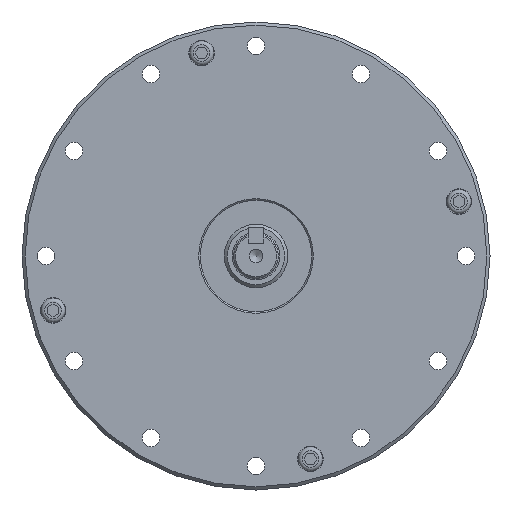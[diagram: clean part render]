
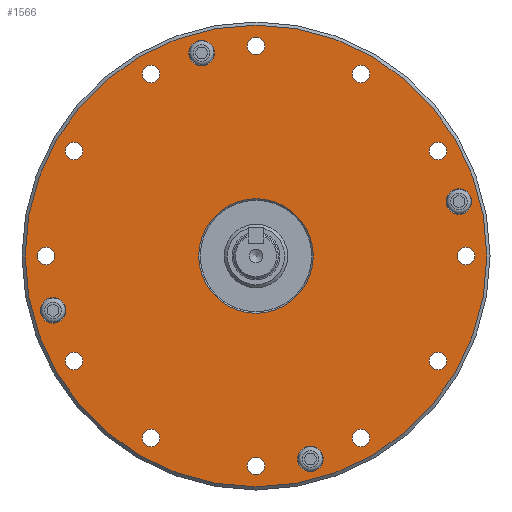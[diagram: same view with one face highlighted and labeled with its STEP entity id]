
A CAD part, front view. The second image highlights one B-rep face of the part: STEP entity #1566.
In plain terms, the highlighted planar face has unit normal (0, -1, 0).
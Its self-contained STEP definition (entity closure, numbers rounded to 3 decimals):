
#1566=ADVANCED_FACE('',(#2799,#2800,#2801,#2802,#2803,#2804,#2805,#2806,
#2807,#2808,#2809,#2810,#2811,#2812,#2813,#2814,#2815,#4507),#2258,.T.);
#2258=PLANE('',#12468);
#2799=FACE_BOUND('',#5254,.T.);
#2800=FACE_BOUND('',#5255,.T.);
#2801=FACE_BOUND('',#5256,.T.);
#2802=FACE_BOUND('',#5257,.T.);
#2803=FACE_BOUND('',#5258,.T.);
#2804=FACE_BOUND('',#5259,.T.);
#2805=FACE_BOUND('',#5260,.T.);
#2806=FACE_BOUND('',#5261,.T.);
#2807=FACE_BOUND('',#5262,.T.);
#2808=FACE_BOUND('',#5263,.T.);
#2809=FACE_BOUND('',#5264,.T.);
#2810=FACE_BOUND('',#5265,.T.);
#2811=FACE_BOUND('',#5266,.T.);
#2812=FACE_BOUND('',#5267,.T.);
#2813=FACE_BOUND('',#5268,.T.);
#2814=FACE_BOUND('',#5269,.T.);
#2815=FACE_BOUND('',#5270,.T.);
#4507=FACE_OUTER_BOUND('',#5271,.T.);
#5254=EDGE_LOOP('',(#6871));
#5255=EDGE_LOOP('',(#6872));
#5256=EDGE_LOOP('',(#6873));
#5257=EDGE_LOOP('',(#6874));
#5258=EDGE_LOOP('',(#6875));
#5259=EDGE_LOOP('',(#6876));
#5260=EDGE_LOOP('',(#6877));
#5261=EDGE_LOOP('',(#6878));
#5262=EDGE_LOOP('',(#6879));
#5263=EDGE_LOOP('',(#6880));
#5264=EDGE_LOOP('',(#6881));
#5265=EDGE_LOOP('',(#6882));
#5266=EDGE_LOOP('',(#6883));
#5267=EDGE_LOOP('',(#6884));
#5268=EDGE_LOOP('',(#6885));
#5269=EDGE_LOOP('',(#6886));
#5270=EDGE_LOOP('',(#6887));
#5271=EDGE_LOOP('',(#6888));
#6871=ORIENTED_EDGE('',*,*,#10253,.T.);
#6872=ORIENTED_EDGE('',*,*,#10215,.T.);
#6873=ORIENTED_EDGE('',*,*,#10219,.T.);
#6874=ORIENTED_EDGE('',*,*,#10223,.T.);
#6875=ORIENTED_EDGE('',*,*,#10225,.T.);
#6876=ORIENTED_EDGE('',*,*,#10227,.T.);
#6877=ORIENTED_EDGE('',*,*,#10229,.T.);
#6878=ORIENTED_EDGE('',*,*,#10231,.T.);
#6879=ORIENTED_EDGE('',*,*,#10233,.T.);
#6880=ORIENTED_EDGE('',*,*,#10235,.T.);
#6881=ORIENTED_EDGE('',*,*,#10237,.T.);
#6882=ORIENTED_EDGE('',*,*,#10239,.T.);
#6883=ORIENTED_EDGE('',*,*,#10241,.T.);
#6884=ORIENTED_EDGE('',*,*,#10243,.T.);
#6885=ORIENTED_EDGE('',*,*,#10245,.T.);
#6886=ORIENTED_EDGE('',*,*,#10254,.T.);
#6887=ORIENTED_EDGE('',*,*,#10255,.T.);
#6888=ORIENTED_EDGE('',*,*,#10256,.T.);
#9110=VERTEX_POINT('',#18082);
#9114=VERTEX_POINT('',#18093);
#9118=VERTEX_POINT('',#18104);
#9120=VERTEX_POINT('',#18110);
#9122=VERTEX_POINT('',#18115);
#9124=VERTEX_POINT('',#18120);
#9126=VERTEX_POINT('',#18125);
#9128=VERTEX_POINT('',#18130);
#9130=VERTEX_POINT('',#18135);
#9132=VERTEX_POINT('',#18140);
#9134=VERTEX_POINT('',#18145);
#9136=VERTEX_POINT('',#18150);
#9138=VERTEX_POINT('',#18155);
#9140=VERTEX_POINT('',#18160);
#9148=VERTEX_POINT('',#18180);
#9149=VERTEX_POINT('',#18182);
#9150=VERTEX_POINT('',#18184);
#9151=VERTEX_POINT('',#18186);
#10215=EDGE_CURVE('',#9110,#9110,#11400,.T.);
#10219=EDGE_CURVE('',#9114,#9114,#11404,.T.);
#10223=EDGE_CURVE('',#9118,#9118,#11408,.T.);
#10225=EDGE_CURVE('',#9120,#9120,#11410,.T.);
#10227=EDGE_CURVE('',#9122,#9122,#11412,.T.);
#10229=EDGE_CURVE('',#9124,#9124,#11414,.T.);
#10231=EDGE_CURVE('',#9126,#9126,#11416,.T.);
#10233=EDGE_CURVE('',#9128,#9128,#11418,.T.);
#10235=EDGE_CURVE('',#9130,#9130,#11420,.T.);
#10237=EDGE_CURVE('',#9132,#9132,#11422,.T.);
#10239=EDGE_CURVE('',#9134,#9134,#11424,.T.);
#10241=EDGE_CURVE('',#9136,#9136,#11426,.T.);
#10243=EDGE_CURVE('',#9138,#9138,#11428,.T.);
#10245=EDGE_CURVE('',#9140,#9140,#11430,.T.);
#10253=EDGE_CURVE('',#9148,#9148,#11438,.T.);
#10254=EDGE_CURVE('',#9149,#9149,#11439,.T.);
#10255=EDGE_CURVE('',#9150,#9150,#11440,.T.);
#10256=EDGE_CURVE('',#9151,#9151,#11441,.T.);
#11400=CIRCLE('',#12404,4.);
#11404=CIRCLE('',#12411,4.);
#11408=CIRCLE('',#12418,4.);
#11410=CIRCLE('',#12422,2.75);
#11412=CIRCLE('',#12425,2.75);
#11414=CIRCLE('',#12428,2.75);
#11416=CIRCLE('',#12431,2.75);
#11418=CIRCLE('',#12434,2.75);
#11420=CIRCLE('',#12437,2.75);
#11422=CIRCLE('',#12440,2.75);
#11424=CIRCLE('',#12443,2.75);
#11426=CIRCLE('',#12446,2.75);
#11428=CIRCLE('',#12449,2.75);
#11430=CIRCLE('',#12452,2.75);
#11438=CIRCLE('',#12464,18.);
#11439=CIRCLE('',#12465,4.);
#11440=CIRCLE('',#12466,2.75);
#11441=CIRCLE('',#12467,72.5);
#12404=AXIS2_PLACEMENT_3D('',#18081,#14436,#14437);
#12411=AXIS2_PLACEMENT_3D('',#18092,#14450,#14451);
#12418=AXIS2_PLACEMENT_3D('',#18103,#14464,#14465);
#12422=AXIS2_PLACEMENT_3D('',#18109,#14472,#14473);
#12425=AXIS2_PLACEMENT_3D('',#18114,#14478,#14479);
#12428=AXIS2_PLACEMENT_3D('',#18119,#14484,#14485);
#12431=AXIS2_PLACEMENT_3D('',#18124,#14490,#14491);
#12434=AXIS2_PLACEMENT_3D('',#18129,#14496,#14497);
#12437=AXIS2_PLACEMENT_3D('',#18134,#14502,#14503);
#12440=AXIS2_PLACEMENT_3D('',#18139,#14508,#14509);
#12443=AXIS2_PLACEMENT_3D('',#18144,#14514,#14515);
#12446=AXIS2_PLACEMENT_3D('',#18149,#14520,#14521);
#12449=AXIS2_PLACEMENT_3D('',#18154,#14526,#14527);
#12452=AXIS2_PLACEMENT_3D('',#18159,#14532,#14533);
#12464=AXIS2_PLACEMENT_3D('',#18179,#14556,#14557);
#12465=AXIS2_PLACEMENT_3D('',#18181,#14558,#14559);
#12466=AXIS2_PLACEMENT_3D('',#18183,#14560,#14561);
#12467=AXIS2_PLACEMENT_3D('',#18185,#14562,#14563);
#12468=AXIS2_PLACEMENT_3D('',#18187,#14564,#14565);
#14436=DIRECTION('',(0.,1.,0.));
#14437=DIRECTION('',(1.,0.,0.));
#14450=DIRECTION('',(0.,1.,0.));
#14451=DIRECTION('',(0.,0.,-1.));
#14464=DIRECTION('',(0.,1.,0.));
#14465=DIRECTION('',(-1.,0.,0.));
#14472=DIRECTION('',(0.,1.,0.));
#14473=DIRECTION('',(0.5,0.,0.866));
#14478=DIRECTION('',(0.,1.,0.));
#14479=DIRECTION('',(0.866,0.,0.5));
#14484=DIRECTION('',(0.,1.,0.));
#14485=DIRECTION('',(1.,0.,0.));
#14490=DIRECTION('',(0.,1.,0.));
#14491=DIRECTION('',(0.866,0.,-0.5));
#14496=DIRECTION('',(0.,1.,0.));
#14497=DIRECTION('',(0.5,0.,-0.866));
#14502=DIRECTION('',(0.,1.,0.));
#14503=DIRECTION('',(0.,0.,-1.));
#14508=DIRECTION('',(0.,1.,0.));
#14509=DIRECTION('',(-0.5,0.,-0.866));
#14514=DIRECTION('',(0.,1.,0.));
#14515=DIRECTION('',(-0.866,0.,-0.5));
#14520=DIRECTION('',(0.,1.,0.));
#14521=DIRECTION('',(-1.,0.,0.));
#14526=DIRECTION('',(0.,1.,0.));
#14527=DIRECTION('',(-0.866,0.,0.5));
#14532=DIRECTION('',(0.,1.,0.));
#14533=DIRECTION('',(-0.5,0.,0.866));
#14556=DIRECTION('',(0.,1.,0.));
#14557=DIRECTION('',(0.,0.,-1.));
#14558=DIRECTION('',(0.,1.,0.));
#14559=DIRECTION('',(0.,0.,1.));
#14560=DIRECTION('',(0.,1.,0.));
#14561=DIRECTION('',(0.,0.,1.));
#14562=DIRECTION('',(0.,-1.,0.));
#14563=DIRECTION('',(0.,0.,-1.));
#14564=DIRECTION('',(0.,-1.,0.));
#14565=DIRECTION('',(0.,0.,-1.));
#18081=CARTESIAN_POINT('',(17.082,-47.,-63.751));
#18082=CARTESIAN_POINT('',(21.082,-47.,-63.751));
#18092=CARTESIAN_POINT('',(-63.751,-47.,-17.082));
#18093=CARTESIAN_POINT('',(-63.751,-47.,-21.082));
#18103=CARTESIAN_POINT('',(-17.082,-47.,63.751));
#18104=CARTESIAN_POINT('',(-21.082,-47.,63.751));
#18109=CARTESIAN_POINT('',(57.158,-47.,-33.));
#18110=CARTESIAN_POINT('',(58.533,-47.,-30.618));
#18114=CARTESIAN_POINT('',(33.,-47.,-57.158));
#18115=CARTESIAN_POINT('',(35.382,-47.,-55.783));
#18119=CARTESIAN_POINT('',(0.,-47.,-66.));
#18120=CARTESIAN_POINT('',(2.75,-47.,-66.));
#18124=CARTESIAN_POINT('',(-33.,-47.,-57.158));
#18125=CARTESIAN_POINT('',(-30.618,-47.,-58.533));
#18129=CARTESIAN_POINT('',(-57.158,-47.,-33.));
#18130=CARTESIAN_POINT('',(-55.783,-47.,-35.382));
#18134=CARTESIAN_POINT('',(-66.,-47.,0.));
#18135=CARTESIAN_POINT('',(-66.,-47.,-2.75));
#18139=CARTESIAN_POINT('',(-57.158,-47.,33.));
#18140=CARTESIAN_POINT('',(-58.533,-47.,30.618));
#18144=CARTESIAN_POINT('',(-33.,-47.,57.158));
#18145=CARTESIAN_POINT('',(-35.382,-47.,55.783));
#18149=CARTESIAN_POINT('',(0.,-47.,66.));
#18150=CARTESIAN_POINT('',(-2.75,-47.,66.));
#18154=CARTESIAN_POINT('',(33.,-47.,57.158));
#18155=CARTESIAN_POINT('',(30.618,-47.,58.533));
#18159=CARTESIAN_POINT('',(57.158,-47.,33.));
#18160=CARTESIAN_POINT('',(55.783,-47.,35.382));
#18179=CARTESIAN_POINT('',(0.,-47.,0.));
#18180=CARTESIAN_POINT('',(0.,-47.,-18.));
#18181=CARTESIAN_POINT('',(63.751,-47.,17.082));
#18182=CARTESIAN_POINT('',(63.751,-47.,21.082));
#18183=CARTESIAN_POINT('',(66.,-47.,0.));
#18184=CARTESIAN_POINT('',(66.,-47.,2.75));
#18185=CARTESIAN_POINT('',(0.,-47.,0.));
#18186=CARTESIAN_POINT('',(0.,-47.,-72.5));
#18187=CARTESIAN_POINT('',(0.,-47.,0.));
